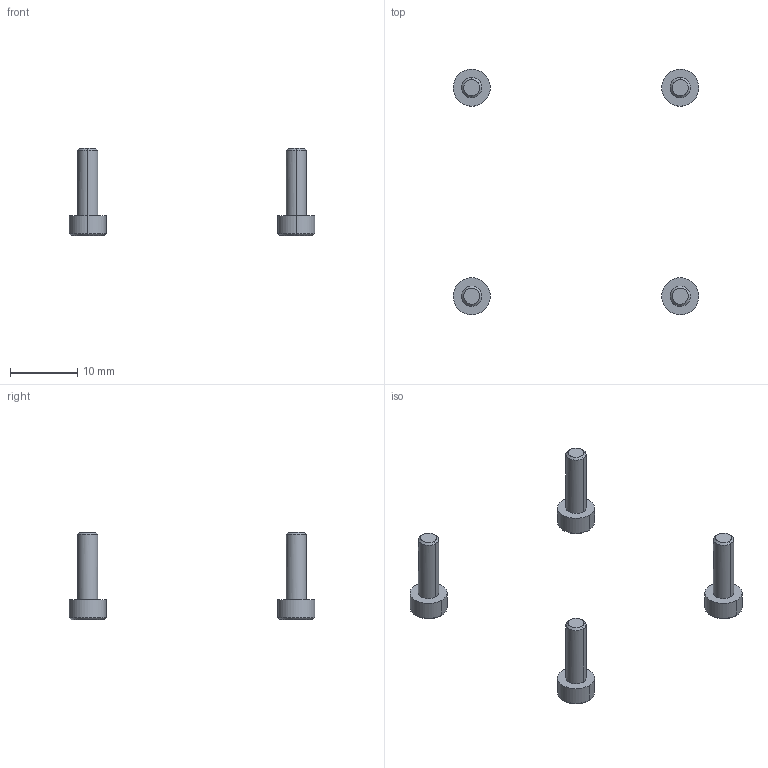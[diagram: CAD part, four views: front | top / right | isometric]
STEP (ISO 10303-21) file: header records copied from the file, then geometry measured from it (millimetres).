
FILE_DESCRIPTION(/* description */ (''),/* implementation_level */ '2;1');
FILE_NAME(/* name */ '8.x-drive#8.3#CB3-10',/* time_stamp */ '2014-12-01T20:18:00+01:00',/* author */ (''),/* organization */ (''),/* preprocessor_version */ 'ST-DEVELOPER v14',/* originating_system */ '',/* authorisation */ '');
FILE_SCHEMA (('AUTOMOTIVE_DESIGN'));
Length unit declared in the file: millimetre
Products named in the file (2): Document; screw DIN912-like, M3x10
Assembly tree (4 placements, depth 2):
  Document
    screw DIN912-like, M3x10  x4
Bounding box: 36.5 x 36.5 x 13 mm (x, y, z)
Volume: 529.8 mm3; surface area: 807.4 mm2
Topology: 4 solids, 4 shells, 100 faces, 224 edges, 132 vertices
Faces by surface type: plane 60, bspline 40
Entity records: 1429 total; most frequent: CARTESIAN_POINT 635, B_SPLINE_CURVE_WITH_KNOTS 126, ORIENTED_EDGE 108, PCURVE 108, DEFINITIONAL_REPRESENTATION 108, SURFACE_CURVE 54, EDGE_CURVE 54, VERTEX_POINT 33
